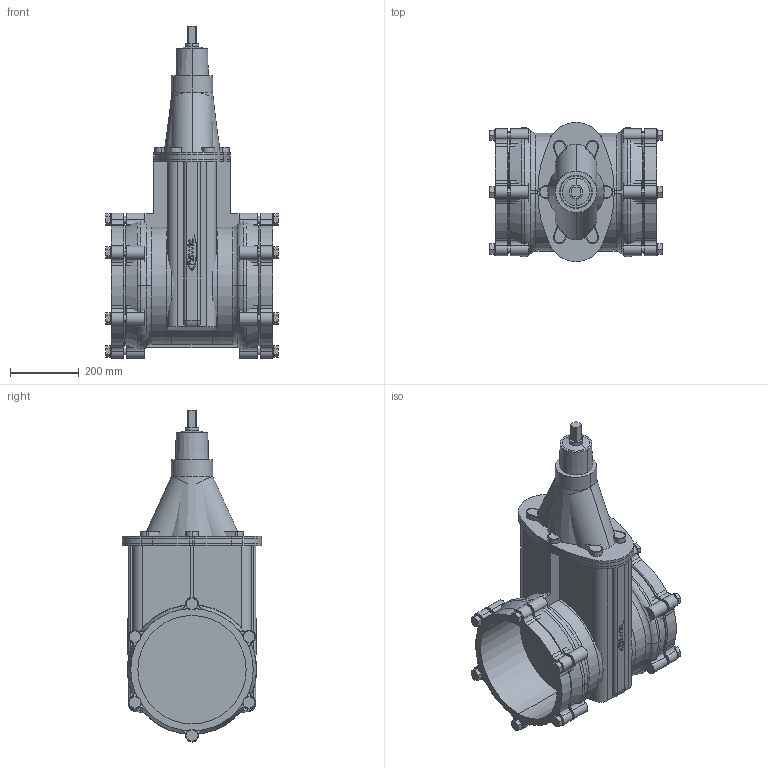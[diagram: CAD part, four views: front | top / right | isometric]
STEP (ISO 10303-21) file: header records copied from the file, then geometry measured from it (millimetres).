
FILE_DESCRIPTION(('STEP AP214'),'1');
FILE_NAME('S:/EK/USER/CAT6/3DHomepage/4040E2/4040E2-PN16-DN300.STP','2012-04-24T11:34:27',(' '),(' '),'Spatial InterOp 3D',' ',' ');
FILE_SCHEMA(('automotive_design'));
Length unit declared in the file: millimetre
Products named in the file (110): 3D-Objekt
Bounding box: 501 x 404.79 x 965.34 mm (x, y, z)
Volume: 56835864.7 mm3; surface area: 3246487.9 mm2
Topology: 110 solids, 110 shells, 876 faces, 1950 edges, 1298 vertices
Faces by surface type: plane 494, cylinder 330, torus 30, cone 14, bspline 8
Entity records: 34154 total; most frequent: DIRECTION 4694, CARTESIAN_POINT 4370, ORIENTED_EDGE 3900, EDGE_CURVE 1950, AXIS2_PLACEMENT_3D 1766, VERTEX_POINT 1298, LINE 1162, VECTOR 1162
